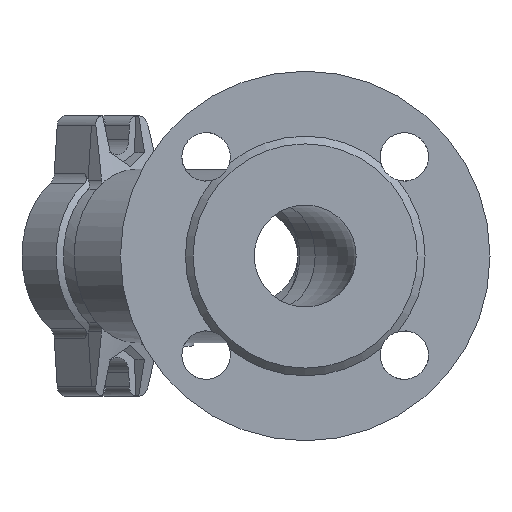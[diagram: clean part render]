
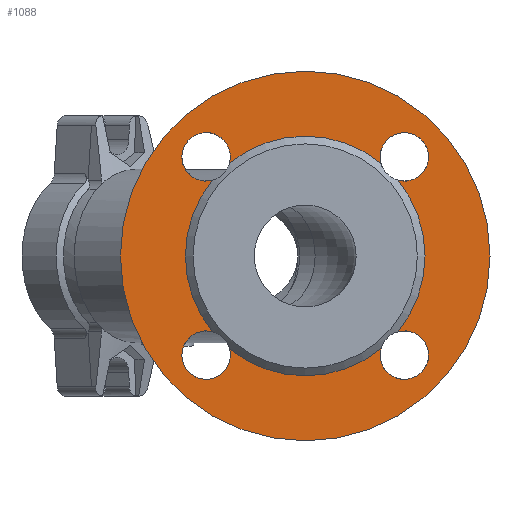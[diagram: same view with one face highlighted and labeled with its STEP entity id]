
A CAD part, front view. The second image highlights one B-rep face of the part: STEP entity #1088.
In plain terms, the highlighted planar face has unit normal (0, -1, 0).
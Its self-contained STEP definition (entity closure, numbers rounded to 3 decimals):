
#1088=ADVANCED_FACE('',(#2130,#2132),#2134,.T.);
#2130=FACE_BOUND('',#2131,.T.);
#2131=EDGE_LOOP('',(#2883));
#2132=FACE_BOUND('',#2133,.T.);
#2133=EDGE_LOOP('',(#2884,#2885,#2886,#2887,#2888,#2889,#2890,#2891,#2892,#2893,
#2894,#2895,#2896));
#2134=PLANE('',#2135);
#2135=AXIS2_PLACEMENT_3D('',#2136,#2137,#2138);
#2136=CARTESIAN_POINT('',(0.,-97.,0.));
#2137=DIRECTION('',(0.,-1.,0.));
#2138=DIRECTION('',(0.,0.,1.));
#2883=ORIENTED_EDGE('',*,*,#3241,.F.);
#2884=ORIENTED_EDGE('',*,*,#3243,.T.);
#2885=ORIENTED_EDGE('',*,*,#3242,.T.);
#2886=ORIENTED_EDGE('',*,*,#3267,.T.);
#2887=ORIENTED_EDGE('',*,*,#3268,.T.);
#2888=ORIENTED_EDGE('',*,*,#3251,.T.);
#2889=ORIENTED_EDGE('',*,*,#3253,.T.);
#2890=ORIENTED_EDGE('',*,*,#3269,.T.);
#2891=ORIENTED_EDGE('',*,*,#3248,.T.);
#2892=ORIENTED_EDGE('',*,*,#3250,.T.);
#2893=ORIENTED_EDGE('',*,*,#3270,.T.);
#2894=ORIENTED_EDGE('',*,*,#3247,.T.);
#2895=ORIENTED_EDGE('',*,*,#3246,.T.);
#2896=ORIENTED_EDGE('',*,*,#3271,.T.);
#3241=EDGE_CURVE('',#3760,#3760,#3761,.T.);
#3242=EDGE_CURVE('',#3762,#3763,#3764,.F.);
#3243=EDGE_CURVE('',#3765,#3762,#3766,.F.);
#3246=EDGE_CURVE('',#3771,#3768,#3772,.F.);
#3247=EDGE_CURVE('',#3769,#3771,#3773,.F.);
#3248=EDGE_CURVE('',#3774,#3775,#3776,.F.);
#3250=EDGE_CURVE('',#3775,#3777,#3779,.F.);
#3251=EDGE_CURVE('',#3780,#3781,#3782,.F.);
#3253=EDGE_CURVE('',#3781,#3783,#3785,.F.);
#3267=EDGE_CURVE('',#3763,#3812,#3813,.T.);
#3268=EDGE_CURVE('',#3812,#3780,#3814,.T.);
#3269=EDGE_CURVE('',#3783,#3774,#3815,.T.);
#3270=EDGE_CURVE('',#3777,#3769,#3816,.T.);
#3271=EDGE_CURVE('',#3768,#3765,#3817,.T.);
#3760=VERTEX_POINT('',#7388);
#3761=CIRCLE('',#7389,72.5);
#3762=VERTEX_POINT('',#7393);
#3763=VERTEX_POINT('',#7394);
#3764=CIRCLE('',#7395,9.5);
#3765=VERTEX_POINT('',#7399);
#3766=CIRCLE('',#7400,9.5);
#3768=VERTEX_POINT('',#7476);
#3769=VERTEX_POINT('',#7477);
#3771=VERTEX_POINT('',#7550);
#3772=CIRCLE('',#7551,9.5);
#3773=CIRCLE('',#7555,9.5);
#3774=VERTEX_POINT('',#7559);
#3775=VERTEX_POINT('',#7560);
#3776=CIRCLE('',#7561,9.5);
#3777=VERTEX_POINT('',#7565);
#3779=CIRCLE('',#7638,9.5);
#3780=VERTEX_POINT('',#7642);
#3781=VERTEX_POINT('',#7643);
#3782=CIRCLE('',#7644,9.5);
#3783=VERTEX_POINT('',#7648);
#3785=CIRCLE('',#7721,9.5);
#3812=VERTEX_POINT('',#8062);
#3813=CIRCLE('',#8063,47.);
#3814=CIRCLE('',#8067,47.);
#3815=CIRCLE('',#8071,47.);
#3816=CIRCLE('',#8075,47.);
#3817=CIRCLE('',#8079,47.);
#7388=CARTESIAN_POINT('',(0.,-97.,72.5));
#7389=AXIS2_PLACEMENT_3D('',#7390,#7391,#7392);
#7390=CARTESIAN_POINT('',(0.,-97.,0.));
#7391=DIRECTION('',(0.,1.,0.));
#7392=DIRECTION('',(0.,0.,1.));
#7393=CARTESIAN_POINT('',(-38.891,-97.,48.391));
#7394=CARTESIAN_POINT('',(-29.721,-97.,36.41));
#7395=AXIS2_PLACEMENT_3D('',#7396,#7397,#7398);
#7396=CARTESIAN_POINT('',(-38.891,-97.,38.891));
#7397=DIRECTION('',(0.,-1.,0.));
#7398=DIRECTION('',(0.965,0.,-0.261));
#7399=CARTESIAN_POINT('',(-36.41,-97.,29.721));
#7400=AXIS2_PLACEMENT_3D('',#7401,#7402,#7403);
#7401=CARTESIAN_POINT('',(-38.891,-97.,38.891));
#7402=DIRECTION('',(0.,-1.,0.));
#7403=DIRECTION('',(0.,0.,1.));
#7476=CARTESIAN_POINT('',(-36.41,-97.,-29.721));
#7477=CARTESIAN_POINT('',(-29.721,-97.,-36.41));
#7550=CARTESIAN_POINT('',(-48.391,-97.,-38.891));
#7551=AXIS2_PLACEMENT_3D('',#7552,#7553,#7554);
#7552=CARTESIAN_POINT('',(-38.891,-97.,-38.891));
#7553=DIRECTION('',(0.,-1.,0.));
#7554=DIRECTION('',(0.261,0.,0.965));
#7555=AXIS2_PLACEMENT_3D('',#7556,#7557,#7558);
#7556=CARTESIAN_POINT('',(-38.891,-97.,-38.891));
#7557=DIRECTION('',(0.,-1.,0.));
#7558=DIRECTION('',(-1.,0.,0.));
#7559=CARTESIAN_POINT('',(36.41,-97.,-29.721));
#7560=CARTESIAN_POINT('',(38.891,-97.,-48.391));
#7561=AXIS2_PLACEMENT_3D('',#7562,#7563,#7564);
#7562=CARTESIAN_POINT('',(38.891,-97.,-38.891));
#7563=DIRECTION('',(0.,-1.,0.));
#7564=DIRECTION('',(0.,0.,-1.));
#7565=CARTESIAN_POINT('',(29.721,-97.,-36.41));
#7638=AXIS2_PLACEMENT_3D('',#7639,#7640,#7641);
#7639=CARTESIAN_POINT('',(38.891,-97.,-38.891));
#7640=DIRECTION('',(0.,-1.,0.));
#7641=DIRECTION('',(-0.965,0.,0.261));
#7642=CARTESIAN_POINT('',(29.721,-97.,36.41));
#7643=CARTESIAN_POINT('',(48.391,-97.,38.891));
#7644=AXIS2_PLACEMENT_3D('',#7645,#7646,#7647);
#7645=CARTESIAN_POINT('',(38.891,-97.,38.891));
#7646=DIRECTION('',(0.,-1.,0.));
#7647=DIRECTION('',(1.,0.,0.));
#7648=CARTESIAN_POINT('',(36.41,-97.,29.721));
#7721=AXIS2_PLACEMENT_3D('',#7722,#7723,#7724);
#7722=CARTESIAN_POINT('',(38.891,-97.,38.891));
#7723=DIRECTION('',(0.,-1.,0.));
#7724=DIRECTION('',(-0.261,0.,-0.965));
#8062=CARTESIAN_POINT('',(0.,-97.,47.));
#8063=AXIS2_PLACEMENT_3D('',#8064,#8065,#8066);
#8064=CARTESIAN_POINT('',(0.,-97.,0.));
#8065=DIRECTION('',(0.,1.,0.));
#8066=DIRECTION('',(-0.632,0.,0.775));
#8067=AXIS2_PLACEMENT_3D('',#8068,#8069,#8070);
#8068=CARTESIAN_POINT('',(0.,-97.,0.));
#8069=DIRECTION('',(0.,1.,0.));
#8070=DIRECTION('',(0.,0.,1.));
#8071=AXIS2_PLACEMENT_3D('',#8072,#8073,#8074);
#8072=CARTESIAN_POINT('',(0.,-97.,0.));
#8073=DIRECTION('',(0.,1.,0.));
#8074=DIRECTION('',(0.775,0.,0.632));
#8075=AXIS2_PLACEMENT_3D('',#8076,#8077,#8078);
#8076=CARTESIAN_POINT('',(0.,-97.,0.));
#8077=DIRECTION('',(0.,1.,0.));
#8078=DIRECTION('',(0.632,0.,-0.775));
#8079=AXIS2_PLACEMENT_3D('',#8080,#8081,#8082);
#8080=CARTESIAN_POINT('',(0.,-97.,0.));
#8081=DIRECTION('',(0.,1.,0.));
#8082=DIRECTION('',(-0.775,0.,-0.632));
